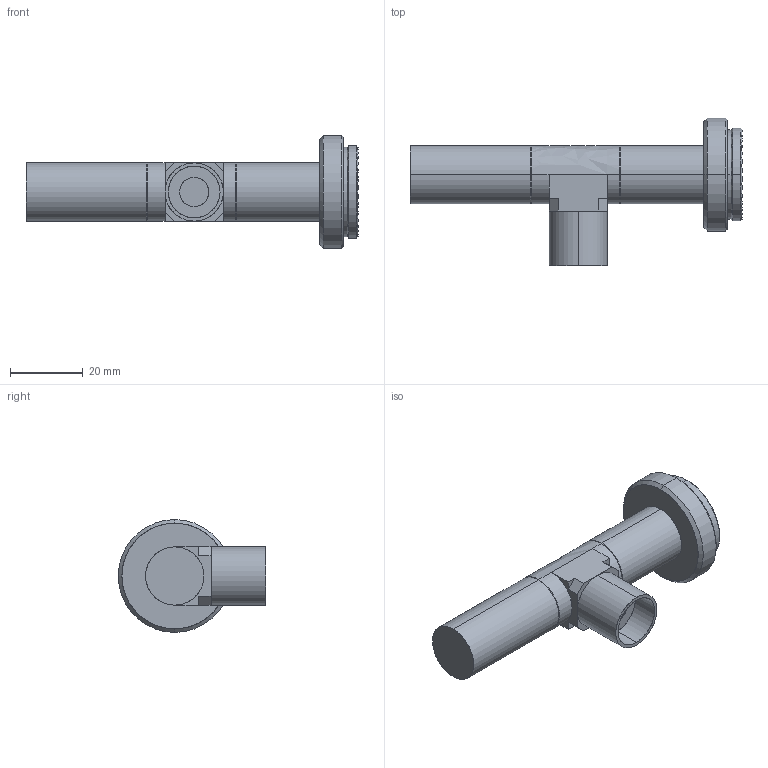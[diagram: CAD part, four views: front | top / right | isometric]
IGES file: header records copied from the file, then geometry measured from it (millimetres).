
Start section: SolidWorks IGES file using analytic representation for surfaces
Bounding box: 91.2 x 40.5 x 31 mm (x, y, z)
Surface area: 8011.1 mm2 (no closed solid volume)
Topology: 0 solids, 0 shells, 58 faces, 700 edges, 700 vertices
Faces by surface type: revolution 35, bspline 23
